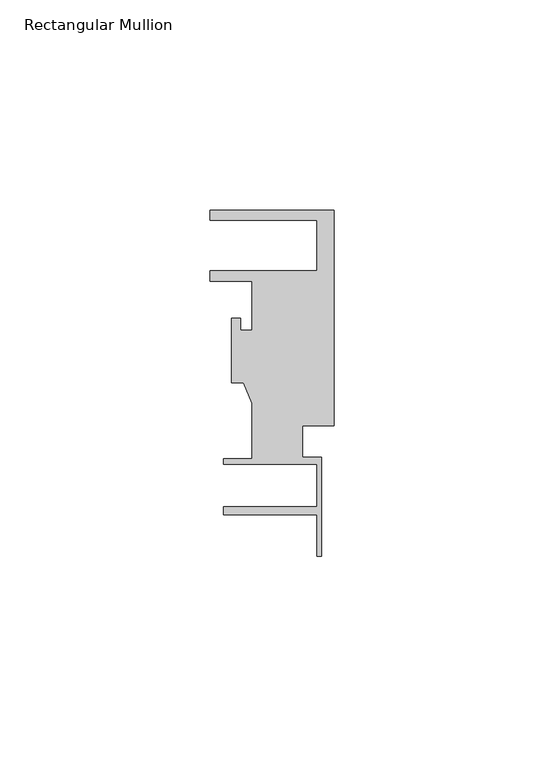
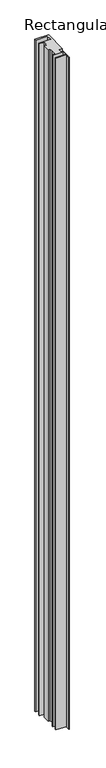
"""IFC4 building model written with IfcOpenShell, lengths in millimetres: member geometry, Rectangular Mullion : Danpal Rigth Mullion."""

from ifc_helpers import new_model, si_unit, frame, origin, place, context, project, spatial, polyline, outline, extrude, source, transform, mapped, element, save


def rectangular_mullion_e9ba2ae8(model_context):
    return source(origin(), model_context, "Body", "SweptSolid", [
        extrude(outline(polyline([(-29.3898666, 82.2567483), (0.0, 82.2567483), (0.0, 31.0322991), (-7.4437443, 31.0322991), (-7.4437443, 23.5472993), (-2.9228036, 23.5472993), (-2.9228036, 0.0), (-4.025332, 0.0), (-4.025332, 9.926765), (-26.1752343, 9.926765), (-26.1752343, 11.7860224), (-4.025332, 11.7860224), (-4.025332, 21.8972993), (-26.1752343, 21.8972993), (-26.1752343, 23.2472993), (-19.4516142, 23.2472993), (-19.4516142, 36.4037159), (-21.5132835, 41.2607044), (-24.3605597, 41.2607044), (-24.3605597, 56.6749017), (-22.2181882, 56.6749017), (-22.2181882, 53.8258193), (-19.453538, 53.8258193), (-19.453538, 65.4472993), (-29.3898666, 65.4472993), (-29.3898666, 67.8972993), (-4.037129, 67.8972993), (-4.037129, 79.8972993), (-29.3898666, 79.8972993), (-29.3898666, 82.2567483)])), frame((0.0, 0.0, -1521.5273316), z_axis=(0.0, 0.0, 1.0), x_axis=(1.0, 0.0, 0.0)), (0.0, 0.0, 1.0), 1521.5273316),
    ])


if __name__ == "__main__":
    model = new_model("IFC4")
    model_context = context("Model", 3, world=origin())
    ifc_project = project(units=[si_unit("LENGTHUNIT", "METRE", prefix="MILLI")], contexts=[model_context])
    site = spatial("IfcSite", under=ifc_project)
    building = spatial("IfcBuilding", under=site)
    placement = place(None, origin())
    rectangular_mullion_shape = rectangular_mullion_e9ba2ae8(model_context)
    element("IfcMember", 1, ObjectType="Rectangular Mullion : Danpal Rigth Mullion", at=placement, inside=building, context=model_context, shape_type="MappedRepresentation", body=[
        mapped(rectangular_mullion_shape, transform((0.0, 0.0, 0.0), x_axis=(1.0, 0.0, 0.0), y_axis=(0.0, 1.0, 0.0), z_axis=(0.0, 0.0, 1.0))),
    ])
    save(model, "model.ifc")
